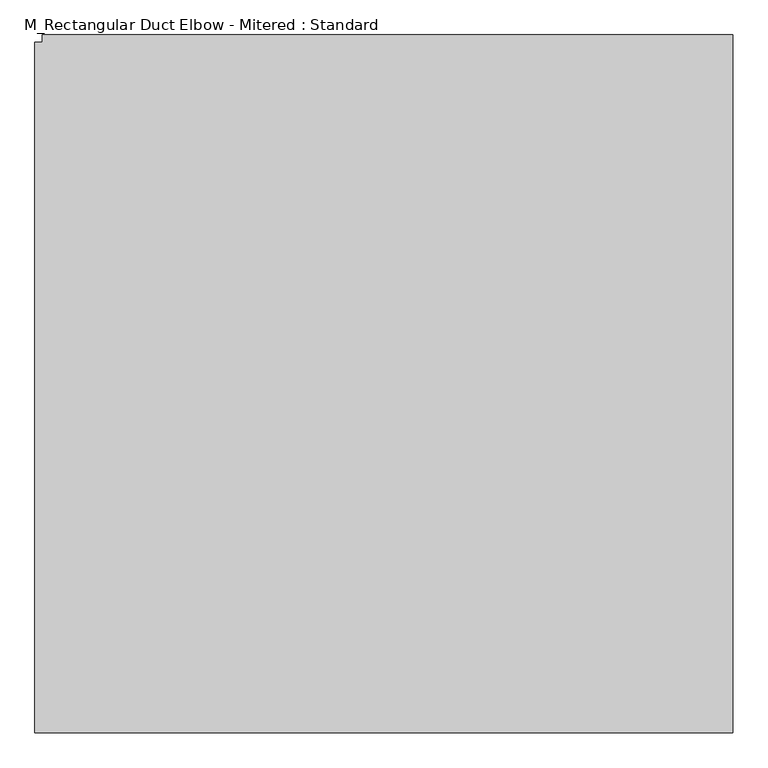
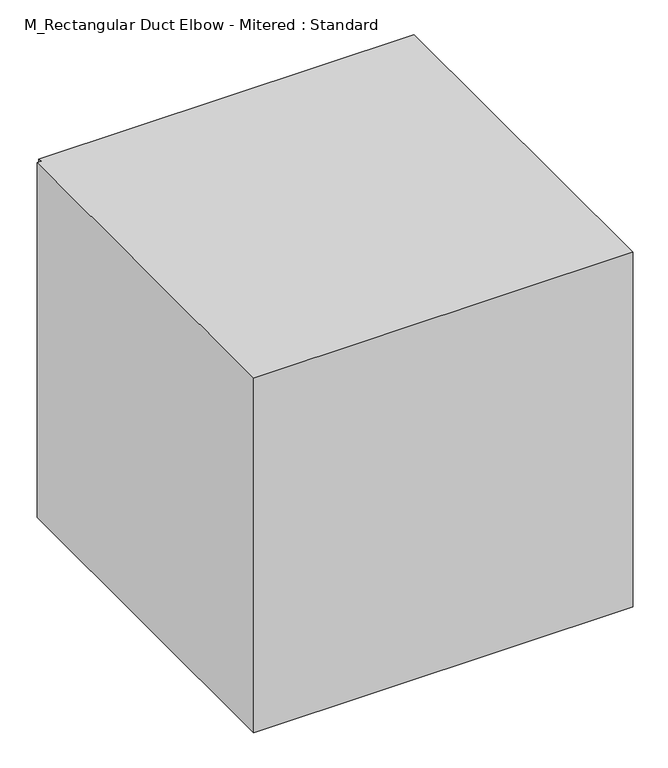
"""IFC4 building model written with IfcOpenShell, lengths in millimetres: duct fitting geometry, M_Rectangular Duct Elbow - Mitered : Standard."""

from ifc_helpers import new_model, si_unit, frame, origin, place, context, project, spatial, polyline, outline, extrude, source, transform, mapped, element, save


def m_rectangular_duct_elbow_mitered_standard_0f3b1f18(model_context):
    return source(origin(), model_context, "Body", "SweptSolid", [
        extrude(outline(polyline([(-1225.0, -1200.0), (-1225.0, 1200.0), (-1200.0, 1200.0), (-1200.0, 1225.0), (1200.0, 1225.0), (1200.0, -1200.0), (-1225.0, -1200.0)])), frame((0.0, 0.0, -1200.0), z_axis=(0.0, 0.0, 1.0), x_axis=(1.0, 0.0, 0.0)), (0.0, 0.0, 1.0), 2400.0),
        extrude(outline(polyline([(-1225.0, -1200.0), (-1225.0, 1200.0), (-1200.0, 1200.0), (-1200.0, 1225.0), (1200.0, 1225.0), (1200.0, -1200.0), (-1225.0, -1200.0)])), frame((0.0, 0.0, -1200.0), z_axis=(0.0, 0.0, 1.0), x_axis=(1.0, 0.0, 0.0)), (0.0, 0.0, 1.0), 2400.0),
        extrude(outline(polyline([(-1225.0, -1200.0), (-1225.0, 1200.0), (-1200.0, 1200.0), (-1200.0, 1225.0), (1200.0, 1225.0), (1200.0, -1200.0), (-1225.0, -1200.0)])), frame((0.0, 0.0, -1200.0), z_axis=(0.0, 0.0, 1.0), x_axis=(1.0, 0.0, 0.0)), (0.0, 0.0, 1.0), 2400.0),
    ])


if __name__ == "__main__":
    model = new_model("IFC4")
    model_context = context("Model", 3, world=origin())
    ifc_project = project(units=[si_unit("LENGTHUNIT", "METRE", prefix="MILLI")], contexts=[model_context])
    site = spatial("IfcSite", under=ifc_project)
    building = spatial("IfcBuilding", under=site)
    placement = place(None, origin())
    m_rectangular_duct_elbow_mitered_standard_shape = m_rectangular_duct_elbow_mitered_standard_0f3b1f18(model_context)
    element("IfcDuctFitting", 1, ObjectType="M_Rectangular Duct Elbow - Mitered : Standard", at=placement, inside=building, context=model_context, shape_type="MappedRepresentation", body=[
        mapped(m_rectangular_duct_elbow_mitered_standard_shape, transform((0.0, 0.0, 0.0), x_axis=(1.0, 0.0, 0.0), y_axis=(0.0, 1.0, 0.0), z_axis=(0.0, 0.0, 1.0))),
    ])
    save(model, "model.ifc")
